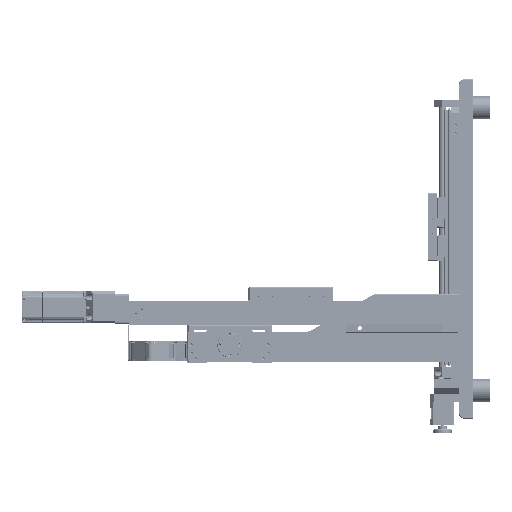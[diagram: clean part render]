
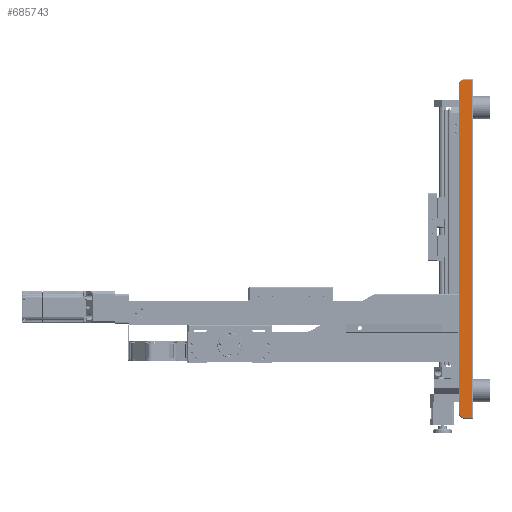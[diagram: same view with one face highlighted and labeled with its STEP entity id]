
A CAD part, left-side view. The second image highlights one B-rep face of the part: STEP entity #685743.
In plain terms, the highlighted planar face has unit normal (-1, 0, 0).
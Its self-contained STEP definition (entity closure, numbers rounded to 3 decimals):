
#9196 = VERTEX_POINT ( 'NONE', #315027 ) ;
#10320 = DIRECTION ( 'NONE',  ( -1., 0., 0. ) ) ;
#24366 = LINE ( 'NONE', #536497, #585946 ) ;
#36755 = ORIENTED_EDGE ( 'NONE', *, *, #668652, .T. ) ;
#53354 = AXIS2_PLACEMENT_3D ( 'NONE', #345476, #10320, #229201 ) ;
#76109 = CARTESIAN_POINT ( 'NONE',  ( -300., -11.5, 300. ) ) ;
#85698 = LINE ( 'NONE', #617803, #417914 ) ;
#93758 = CARTESIAN_POINT ( 'NONE',  ( -300., 2.5, -299. ) ) ;
#106699 = EDGE_CURVE ( 'NONE', #9196, #255627, #207437, .T. ) ;
#110969 = DIRECTION ( 'NONE',  ( 0., 0., -1. ) ) ;
#130067 = EDGE_CURVE ( 'NONE', #255627, #572373, #85698, .T. ) ;
#145686 = EDGE_CURVE ( 'NONE', #640912, #321900, #292511, .T. ) ;
#201552 = CARTESIAN_POINT ( 'NONE',  ( -300., -11.5, 299. ) ) ;
#207437 = LINE ( 'NONE', #76109, #573031 ) ;
#218227 = CARTESIAN_POINT ( 'NONE',  ( -300., 12.5, 300. ) ) ;
#221515 = ORIENTED_EDGE ( 'NONE', *, *, #371396, .T. ) ;
#228166 = DIRECTION ( 'NONE',  ( 0., 1., 0. ) ) ;
#229201 = DIRECTION ( 'NONE',  ( 0., 0., -1. ) ) ;
#234202 = ORIENTED_EDGE ( 'NONE', *, *, #106699, .T. ) ;
#235473 = CIRCLE ( 'NONE', #53354, 9. ) ;
#238833 = AXIS2_PLACEMENT_3D ( 'NONE', #218227, #272764, #110969 ) ;
#246442 = AXIS2_PLACEMENT_3D ( 'NONE', #334853, #389480, #444078 ) ;
#255627 = VERTEX_POINT ( 'NONE', #201552 ) ;
#272764 = DIRECTION ( 'NONE',  ( 1., 0., 0. ) ) ;
#292511 = CIRCLE ( 'NONE', #246442, 9. ) ;
#294658 = CARTESIAN_POINT ( 'NONE',  ( -300., 11.5, 290. ) ) ;
#315027 = CARTESIAN_POINT ( 'NONE',  ( -300., -11.5, -299. ) ) ;
#321900 = VERTEX_POINT ( 'NONE', #93758 ) ;
#326408 = CARTESIAN_POINT ( 'NONE',  ( -300., 12.5, -299. ) ) ;
#334853 = CARTESIAN_POINT ( 'NONE',  ( -300., 2.5, -290. ) ) ;
#345476 = CARTESIAN_POINT ( 'NONE',  ( -300., 2.5, 290. ) ) ;
#363237 = CARTESIAN_POINT ( 'NONE',  ( -300., 2.5, 299. ) ) ;
#371396 = EDGE_CURVE ( 'NONE', #578637, #640912, #24366, .T. ) ;
#389480 = DIRECTION ( 'NONE',  ( -1., 0., 0. ) ) ;
#417914 = VECTOR ( 'NONE', #228166, 1000. ) ;
#439223 = EDGE_CURVE ( 'NONE', #321900, #9196, #536564, .T. ) ;
#441825 = ORIENTED_EDGE ( 'NONE', *, *, #130067, .T. ) ;
#444078 = DIRECTION ( 'NONE',  ( 0., 0., -1. ) ) ;
#448086 = DIRECTION ( 'NONE',  ( 0., -1., 0. ) ) ;
#475547 = ORIENTED_EDGE ( 'NONE', *, *, #439223, .T. ) ;
#490988 = EDGE_LOOP ( 'NONE', ( #475547, #234202, #441825, #36755, #221515, #676068 ) ) ;
#513623 = DIRECTION ( 'NONE',  ( 0., 0., 1. ) ) ;
#536497 = CARTESIAN_POINT ( 'NONE',  ( -300., 11.5, 300. ) ) ;
#536564 = LINE ( 'NONE', #326408, #612937 ) ;
#572373 = VERTEX_POINT ( 'NONE', #363237 ) ;
#573031 = VECTOR ( 'NONE', #513623, 1000. ) ;
#578637 = VERTEX_POINT ( 'NONE', #294658 ) ;
#585946 = VECTOR ( 'NONE', #652776, 1000. ) ;
#593792 = PLANE ( 'NONE',  #238833 ) ;
#612937 = VECTOR ( 'NONE', #448086, 1000. ) ;
#617803 = CARTESIAN_POINT ( 'NONE',  ( -300., 12.5, 299. ) ) ;
#640912 = VERTEX_POINT ( 'NONE', #702771 ) ;
#652776 = DIRECTION ( 'NONE',  ( 0., 0., -1. ) ) ;
#668652 = EDGE_CURVE ( 'NONE', #572373, #578637, #235473, .T. ) ;
#676068 = ORIENTED_EDGE ( 'NONE', *, *, #145686, .T. ) ;
#676612 = FACE_OUTER_BOUND ( 'NONE', #490988, .T. ) ;
#685743 = ADVANCED_FACE ( 'NONE', ( #676612 ), #593792, .F. ) ;
#702771 = CARTESIAN_POINT ( 'NONE',  ( -300., 11.5, -290. ) ) ;
